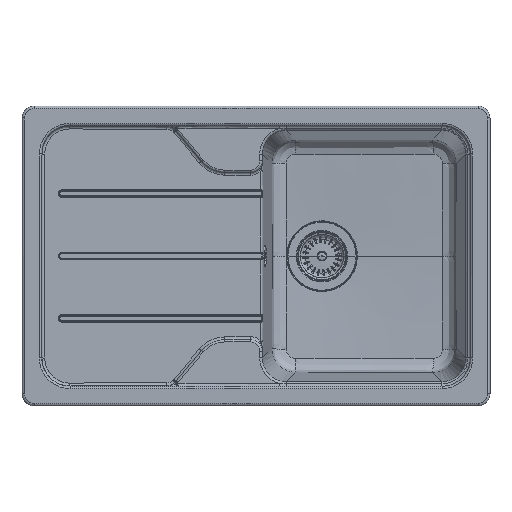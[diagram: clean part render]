
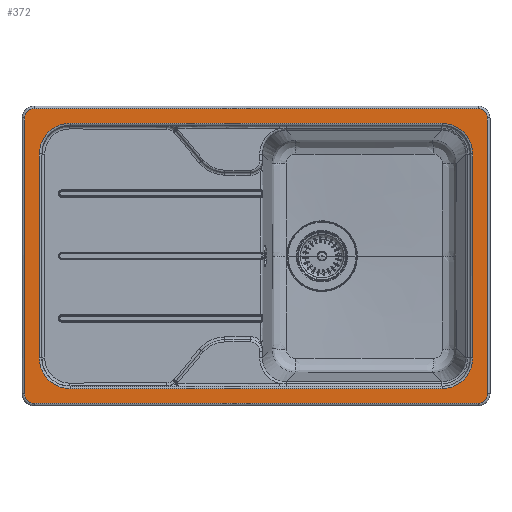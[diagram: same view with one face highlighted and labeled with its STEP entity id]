
A CAD part, top view. The second image highlights one B-rep face of the part: STEP entity #372.
In plain terms, the highlighted planar face has unit normal (0, 0, 1).
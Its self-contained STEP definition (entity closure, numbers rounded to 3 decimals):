
#281=FACE_BOUND('',#1233,.T.);
#372=ADVANCED_FACE('',(#802,#281),#8445,.T.);
#802=FACE_OUTER_BOUND('',#1232,.T.);
#1232=EDGE_LOOP('',(#1761,#1762,#1763,#1764,#1765,#1766,#1767,#1768));
#1233=EDGE_LOOP('',(#1769,#1770,#1771,#1772,#1773,#1774,#1775,#1776));
#1761=ORIENTED_EDGE('',*,*,#4175,.T.);
#1762=ORIENTED_EDGE('',*,*,#4168,.T.);
#1763=ORIENTED_EDGE('',*,*,#4201,.T.);
#1764=ORIENTED_EDGE('',*,*,#4167,.T.);
#1765=ORIENTED_EDGE('',*,*,#4204,.T.);
#1766=ORIENTED_EDGE('',*,*,#4166,.T.);
#1767=ORIENTED_EDGE('',*,*,#4207,.T.);
#1768=ORIENTED_EDGE('',*,*,#4165,.T.);
#1769=ORIENTED_EDGE('',*,*,#4172,.T.);
#1770=ORIENTED_EDGE('',*,*,#4162,.F.);
#1771=ORIENTED_EDGE('',*,*,#4171,.T.);
#1772=ORIENTED_EDGE('',*,*,#4384,.T.);
#1773=ORIENTED_EDGE('',*,*,#4170,.T.);
#1774=ORIENTED_EDGE('',*,*,#4389,.T.);
#1775=ORIENTED_EDGE('',*,*,#4169,.T.);
#1776=ORIENTED_EDGE('',*,*,#4209,.T.);
#4162=EDGE_CURVE('',#7017,#7018,#5584,.T.);
#4165=EDGE_CURVE('',#7021,#7019,#6113,.T.);
#4166=EDGE_CURVE('',#7023,#7022,#6114,.T.);
#4167=EDGE_CURVE('',#7025,#7024,#6115,.T.);
#4168=EDGE_CURVE('',#7020,#7026,#6116,.T.);
#4169=EDGE_CURVE('',#7029,#7027,#6117,.T.);
#4170=EDGE_CURVE('',#7031,#7030,#6118,.T.);
#4171=EDGE_CURVE('',#7017,#7032,#6119,.T.);
#4172=EDGE_CURVE('',#7028,#7018,#6120,.T.);
#4175=EDGE_CURVE('',#7019,#7020,#5589,.T.);
#4201=EDGE_CURVE('',#7026,#7025,#5599,.T.);
#4204=EDGE_CURVE('',#7024,#7023,#5602,.T.);
#4207=EDGE_CURVE('',#7022,#7021,#5605,.T.);
#4209=EDGE_CURVE('',#7027,#7028,#5607,.T.);
#4384=EDGE_CURVE('',#7032,#7031,#5684,.T.);
#4389=EDGE_CURVE('',#7030,#7029,#5688,.T.);
#5584=(
BOUNDED_CURVE()
B_SPLINE_CURVE(2,(#17331,#17332,#17333),.UNSPECIFIED.,.F.,.F.)
B_SPLINE_CURVE_WITH_KNOTS((3,3),(0.,80.219),.UNSPECIFIED.)
CURVE()
GEOMETRIC_REPRESENTATION_ITEM()
RATIONAL_B_SPLINE_CURVE((1.,0.707,1.))
REPRESENTATION_ITEM('')
);
#5589=(
BOUNDED_CURVE()
B_SPLINE_CURVE(2,(#17362,#17363,#17364),.UNSPECIFIED.,.F.,.F.)
B_SPLINE_CURVE_WITH_KNOTS((3,3),(0.,24.788),.UNSPECIFIED.)
CURVE()
GEOMETRIC_REPRESENTATION_ITEM()
RATIONAL_B_SPLINE_CURVE((1.,0.707,1.))
REPRESENTATION_ITEM('')
);
#5599=(
BOUNDED_CURVE()
B_SPLINE_CURVE(2,(#17424,#17425,#17426),.UNSPECIFIED.,.F.,.F.)
B_SPLINE_CURVE_WITH_KNOTS((3,3),(0.,24.788),.UNSPECIFIED.)
CURVE()
GEOMETRIC_REPRESENTATION_ITEM()
RATIONAL_B_SPLINE_CURVE((1.,0.707,1.))
REPRESENTATION_ITEM('')
);
#5602=(
BOUNDED_CURVE()
B_SPLINE_CURVE(2,(#17433,#17434,#17435),.UNSPECIFIED.,.F.,.F.)
B_SPLINE_CURVE_WITH_KNOTS((3,3),(0.,24.788),.UNSPECIFIED.)
CURVE()
GEOMETRIC_REPRESENTATION_ITEM()
RATIONAL_B_SPLINE_CURVE((1.,0.707,1.))
REPRESENTATION_ITEM('')
);
#5605=(
BOUNDED_CURVE()
B_SPLINE_CURVE(2,(#17442,#17443,#17444),.UNSPECIFIED.,.F.,.F.)
B_SPLINE_CURVE_WITH_KNOTS((3,3),(0.,24.788),.UNSPECIFIED.)
CURVE()
GEOMETRIC_REPRESENTATION_ITEM()
RATIONAL_B_SPLINE_CURVE((1.,0.707,1.))
REPRESENTATION_ITEM('')
);
#5607=(
BOUNDED_CURVE()
B_SPLINE_CURVE(2,(#17448,#17449,#17450),.UNSPECIFIED.,.F.,.F.)
B_SPLINE_CURVE_WITH_KNOTS((3,3),(-80.219,0.),.UNSPECIFIED.)
CURVE()
GEOMETRIC_REPRESENTATION_ITEM()
RATIONAL_B_SPLINE_CURVE((1.,0.707,1.))
REPRESENTATION_ITEM('')
);
#5684=(
BOUNDED_CURVE()
B_SPLINE_CURVE(2,(#19732,#19733,#19734),.UNSPECIFIED.,.F.,.F.)
B_SPLINE_CURVE_WITH_KNOTS((3,3),(-80.219,0.),.UNSPECIFIED.)
CURVE()
GEOMETRIC_REPRESENTATION_ITEM()
RATIONAL_B_SPLINE_CURVE((1.,0.707,1.))
REPRESENTATION_ITEM('')
);
#5688=(
BOUNDED_CURVE()
B_SPLINE_CURVE(2,(#19746,#19747,#19748),.UNSPECIFIED.,.F.,.F.)
B_SPLINE_CURVE_WITH_KNOTS((3,3),(-80.219,0.),.UNSPECIFIED.)
CURVE()
GEOMETRIC_REPRESENTATION_ITEM()
RATIONAL_B_SPLINE_CURVE((1.,0.707,1.))
REPRESENTATION_ITEM('')
);
#6113=B_SPLINE_CURVE_WITH_KNOTS('',1,(#17340,#17341),.UNSPECIFIED.,.F.,
 .F.,(2,2),(0.,740.),.UNSPECIFIED.);
#6114=B_SPLINE_CURVE_WITH_KNOTS('',1,(#17342,#17343),.UNSPECIFIED.,.F.,
 .F.,(2,2),(0.,460.),.UNSPECIFIED.);
#6115=B_SPLINE_CURVE_WITH_KNOTS('',1,(#17344,#17345),.UNSPECIFIED.,.F.,
 .F.,(2,2),(0.,740.),.UNSPECIFIED.);
#6116=B_SPLINE_CURVE_WITH_KNOTS('',1,(#17346,#17347),.UNSPECIFIED.,.F.,
 .F.,(2,2),(0.,460.),.UNSPECIFIED.);
#6117=B_SPLINE_CURVE_WITH_KNOTS('',1,(#17348,#17349),.UNSPECIFIED.,.F.,
 .F.,(2,2),(-620.,0.),.UNSPECIFIED.);
#6118=B_SPLINE_CURVE_WITH_KNOTS('',1,(#17350,#17351),.UNSPECIFIED.,.F.,
 .F.,(2,2),(-340.,0.),.UNSPECIFIED.);
#6119=B_SPLINE_CURVE_WITH_KNOTS('',1,(#17352,#17353),.UNSPECIFIED.,.F.,
 .F.,(2,2),(-620.,0.),.UNSPECIFIED.);
#6120=B_SPLINE_CURVE_WITH_KNOTS('',1,(#17354,#17355),.UNSPECIFIED.,.F.,
 .F.,(2,2),(-340.,0.),.UNSPECIFIED.);
#7017=VERTEX_POINT('',#17086);
#7018=VERTEX_POINT('',#17087);
#7019=VERTEX_POINT('',#17088);
#7020=VERTEX_POINT('',#17089);
#7021=VERTEX_POINT('',#17090);
#7022=VERTEX_POINT('',#17091);
#7023=VERTEX_POINT('',#17092);
#7024=VERTEX_POINT('',#17093);
#7025=VERTEX_POINT('',#17094);
#7026=VERTEX_POINT('',#17095);
#7027=VERTEX_POINT('',#17096);
#7028=VERTEX_POINT('',#17097);
#7029=VERTEX_POINT('',#17098);
#7030=VERTEX_POINT('',#17099);
#7031=VERTEX_POINT('',#17100);
#7032=VERTEX_POINT('',#17101);
#8445=PLANE('',#8511);
#8511=AXIS2_PLACEMENT_3D('',#8711,#8561,$);
#8561=DIRECTION('',(0.,0.,1.));
#8711=CARTESIAN_POINT('',(-403.057,-359.057,0.));
#17086=CARTESIAN_POINT('',(370.,-285.069,0.));
#17087=CARTESIAN_POINT('',(421.069,-234.,0.));
#17088=CARTESIAN_POINT('',(430.,-309.78,0.));
#17089=CARTESIAN_POINT('',(445.78,-294.,0.));
#17090=CARTESIAN_POINT('',(-310.,-309.78,0.));
#17091=CARTESIAN_POINT('',(-325.78,-294.,0.));
#17092=CARTESIAN_POINT('',(-325.78,166.,0.));
#17093=CARTESIAN_POINT('',(-310.,181.78,0.));
#17094=CARTESIAN_POINT('',(430.,181.78,0.));
#17095=CARTESIAN_POINT('',(445.78,166.,0.));
#17096=CARTESIAN_POINT('',(370.,157.069,0.));
#17097=CARTESIAN_POINT('',(421.069,106.,0.));
#17098=CARTESIAN_POINT('',(-250.,157.069,0.));
#17099=CARTESIAN_POINT('',(-301.069,106.,0.));
#17100=CARTESIAN_POINT('',(-301.069,-234.,0.));
#17101=CARTESIAN_POINT('',(-250.,-285.069,0.));
#17331=CARTESIAN_POINT('',(370.,-285.069,0.));
#17332=CARTESIAN_POINT('',(421.069,-285.069,0.));
#17333=CARTESIAN_POINT('',(421.069,-234.,0.));
#17340=CARTESIAN_POINT('',(-310.,-309.78,0.));
#17341=CARTESIAN_POINT('',(430.,-309.78,0.));
#17342=CARTESIAN_POINT('',(-325.78,166.,0.));
#17343=CARTESIAN_POINT('',(-325.78,-294.,0.));
#17344=CARTESIAN_POINT('',(430.,181.78,0.));
#17345=CARTESIAN_POINT('',(-310.,181.78,0.));
#17346=CARTESIAN_POINT('',(445.78,-294.,0.));
#17347=CARTESIAN_POINT('',(445.78,166.,0.));
#17348=CARTESIAN_POINT('',(-250.,157.069,0.));
#17349=CARTESIAN_POINT('',(370.,157.069,0.));
#17350=CARTESIAN_POINT('',(-301.069,-234.,0.));
#17351=CARTESIAN_POINT('',(-301.069,106.,0.));
#17352=CARTESIAN_POINT('',(370.,-285.069,0.));
#17353=CARTESIAN_POINT('',(-250.,-285.069,0.));
#17354=CARTESIAN_POINT('',(421.069,106.,0.));
#17355=CARTESIAN_POINT('',(421.069,-234.,0.));
#17362=CARTESIAN_POINT('',(430.,-309.78,0.));
#17363=CARTESIAN_POINT('',(445.78,-309.78,0.));
#17364=CARTESIAN_POINT('',(445.78,-294.,0.));
#17424=CARTESIAN_POINT('',(445.78,166.,0.));
#17425=CARTESIAN_POINT('',(445.78,181.78,0.));
#17426=CARTESIAN_POINT('',(430.,181.78,0.));
#17433=CARTESIAN_POINT('',(-310.,181.78,0.));
#17434=CARTESIAN_POINT('',(-325.78,181.78,0.));
#17435=CARTESIAN_POINT('',(-325.78,166.,0.));
#17442=CARTESIAN_POINT('',(-325.78,-294.,0.));
#17443=CARTESIAN_POINT('',(-325.78,-309.78,0.));
#17444=CARTESIAN_POINT('',(-310.,-309.78,0.));
#17448=CARTESIAN_POINT('',(370.,157.069,0.));
#17449=CARTESIAN_POINT('',(421.069,157.069,0.));
#17450=CARTESIAN_POINT('',(421.069,106.,0.));
#19732=CARTESIAN_POINT('',(-250.,-285.069,0.));
#19733=CARTESIAN_POINT('',(-301.069,-285.069,0.));
#19734=CARTESIAN_POINT('',(-301.069,-234.,0.));
#19746=CARTESIAN_POINT('',(-301.069,106.,0.));
#19747=CARTESIAN_POINT('',(-301.069,157.069,0.));
#19748=CARTESIAN_POINT('',(-250.,157.069,0.));
